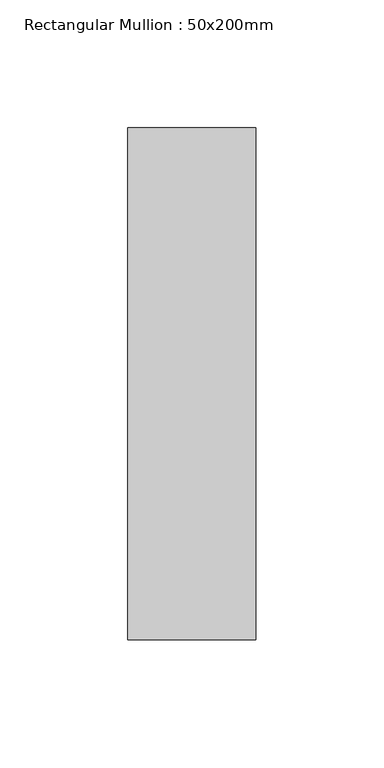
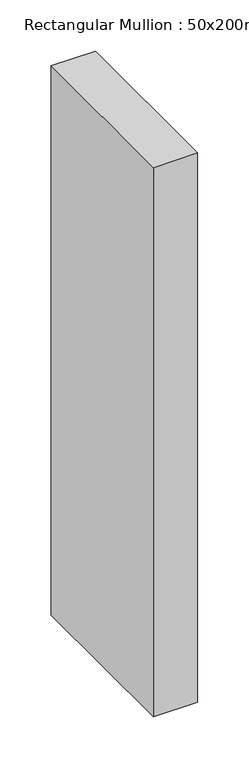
"""IFC4 building model written with IfcOpenShell, lengths in millimetres: member geometry, Rectangular Mullion : 50x200mm."""

from ifc_helpers import new_model, si_unit, frame, origin, place, context, project, spatial, polyline, outline, extrude, source, transform, mapped, element, save


def rectangular_mullion_50x200mm_1a1b5aee(model_context):
    return source(origin(), model_context, "Body", "SweptSolid", [
        extrude(outline(polyline([(0.0, 100.0), (0.0, -100.0), (-50.0, -100.0), (-50.0, 100.0), (0.0, 100.0)])), frame((0.0, 0.0, -655.0), z_axis=(0.0, 0.0, 1.0), x_axis=(1.0, 0.0, 0.0)), (0.0, 0.0, 1.0), 655.0),
    ])


if __name__ == "__main__":
    model = new_model("IFC4")
    model_context = context("Model", 3, world=origin())
    ifc_project = project(units=[si_unit("LENGTHUNIT", "METRE", prefix="MILLI")], contexts=[model_context])
    site = spatial("IfcSite", under=ifc_project)
    building = spatial("IfcBuilding", under=site)
    placement = place(None, origin())
    rectangular_mullion_50x200mm_shape = rectangular_mullion_50x200mm_1a1b5aee(model_context)
    element("IfcMember", 1, ObjectType="Rectangular Mullion : 50x200mm", at=placement, inside=building, context=model_context, shape_type="MappedRepresentation", body=[
        mapped(rectangular_mullion_50x200mm_shape, transform((0.0, 0.0, 0.0), x_axis=(1.0, 0.0, 0.0), y_axis=(0.0, 1.0, 0.0), z_axis=(0.0, 0.0, 1.0))),
    ])
    save(model, "model.ifc")
